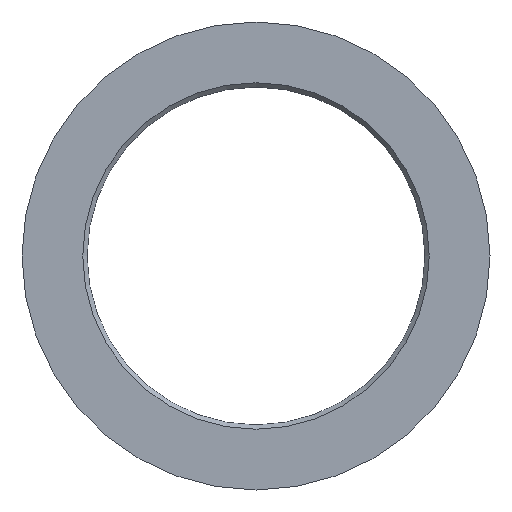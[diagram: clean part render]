
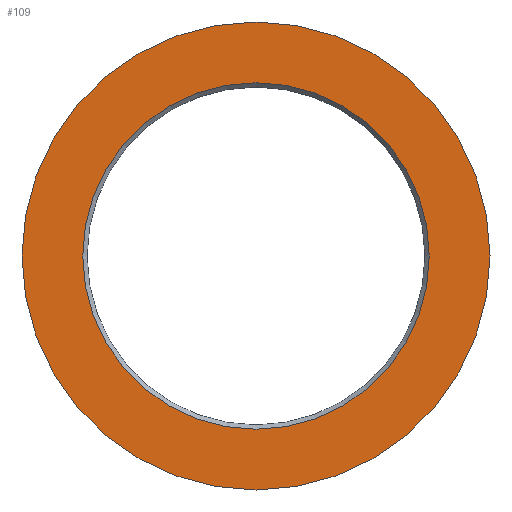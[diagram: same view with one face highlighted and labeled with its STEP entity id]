
A CAD part, front view. The second image highlights one B-rep face of the part: STEP entity #109.
In plain terms, the highlighted planar face has unit normal (0, -1, 0).
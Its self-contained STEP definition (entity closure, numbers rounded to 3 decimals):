
#16=FACE_BOUND('',#34,.T.);
#18=PLANE('',#144);
#25=FACE_OUTER_BOUND('',#33,.T.);
#33=EDGE_LOOP('',(#90));
#34=EDGE_LOOP('',(#91));
#51=CIRCLE('',#143,40.05);
#52=CIRCLE('',#145,54.1);
#59=VERTEX_POINT('',#202);
#60=VERTEX_POINT('',#206);
#70=EDGE_CURVE('',#59,#59,#51,.T.);
#71=EDGE_CURVE('',#60,#60,#52,.T.);
#90=ORIENTED_EDGE('',*,*,#71,.F.);
#91=ORIENTED_EDGE('',*,*,#70,.F.);
#109=ADVANCED_FACE('',(#25,#16),#18,.F.);
#143=AXIS2_PLACEMENT_3D('',#204,#171,#172);
#144=AXIS2_PLACEMENT_3D('',#205,#173,#174);
#145=AXIS2_PLACEMENT_3D('',#207,#175,#176);
#171=DIRECTION('center_axis',(0.,-1.,0.));
#172=DIRECTION('ref_axis',(1.,0.,0.));
#173=DIRECTION('center_axis',(0.,1.,0.));
#174=DIRECTION('ref_axis',(0.,0.,1.));
#175=DIRECTION('center_axis',(0.,1.,0.));
#176=DIRECTION('ref_axis',(-1.,0.,0.));
#202=CARTESIAN_POINT('',(-40.05,0.,0.));
#204=CARTESIAN_POINT('Origin',(0.,0.,0.));
#205=CARTESIAN_POINT('Origin',(0.,0.,0.));
#206=CARTESIAN_POINT('',(-54.1,0.,0.));
#207=CARTESIAN_POINT('Origin',(0.,0.,0.));
